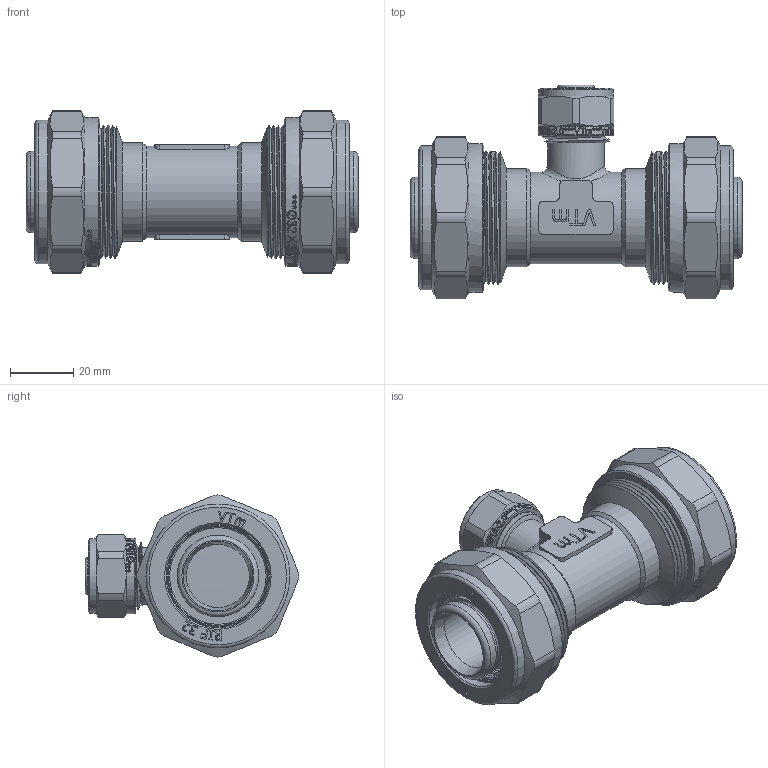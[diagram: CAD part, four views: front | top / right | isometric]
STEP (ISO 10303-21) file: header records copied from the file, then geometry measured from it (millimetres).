
FILE_DESCRIPTION(/* description */ (''),/* implementation_level */ '2;1');
FILE_NAME(/* name */ 'E:\Артём\00000\Работа удаленка\Обжимные фитинги\VTm.331.N.321632.stp',/* time_stamp */ '2020-06-30T13:11:41+03:00',/* author */ ('BeN_GaN'),/* organization */ (''),/* preprocessor_version */ 'ST-DEVELOPER v18',/* originating_system */ 'Autodesk Inventor 2020',/* authorisation */ '');
FILE_SCHEMA (('AUTOMOTIVE_DESIGN { 1 0 10303 214 3 1 1 }'));
Length unit declared in the file: millimetre
Products named in the file (1): VTm.331.N.321632
Bounding box: 105 x 67.65 x 51.3 mm (x, y, z)
Volume: 86417.6 mm3; surface area: 45616.7 mm2
Topology: 1 solids, 1 shells, 2051 faces, 5810 edges, 3918 vertices
Faces by surface type: bspline 1107, plane 570, cylinder 254, torus 72, cone 48
Full cylindrical faces by diameter (mm): 8 x1, 9.4 x2, 11.75 x4, 16 x4, 16.2 x1, 16.6 x4, 17 x1, 17.4 x3, 18 x1, 18.6 x2, 20 x1, 23.4 x4, 23.5 x1, 24 x1, 25.75 x10, 29 x1, 30.538 x8, 31 x2, 31.683 x10, 32.2 x2, 32.7 x2, 35.5 x2, 40.38 x16, 40.5 x7, 42 x6, 45.5 x2, 47 x2
Entity records: 90513 total; most frequent: CARTESIAN_POINT 44418, ORIENTED_EDGE 11630, DIRECTION 6094, EDGE_CURVE 5815, VERTEX_POINT 3923, LINE 2480, VECTOR 2480, B_SPLINE_CURVE_WITH_KNOTS 2417
